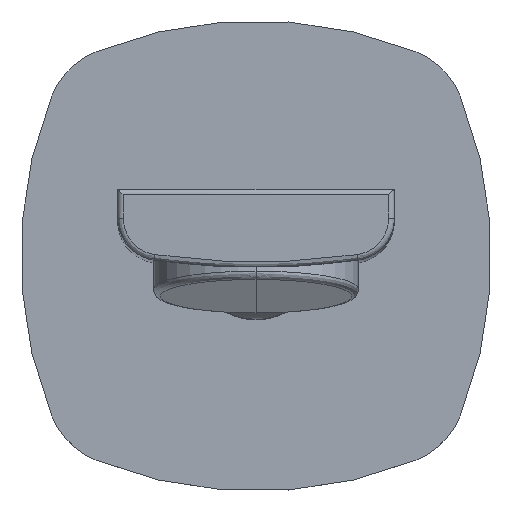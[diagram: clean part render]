
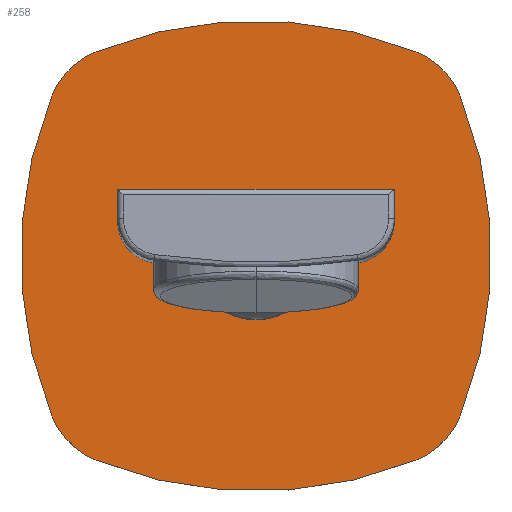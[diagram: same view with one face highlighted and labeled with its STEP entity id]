
A CAD part, top view. The second image highlights one B-rep face of the part: STEP entity #258.
In plain terms, the highlighted planar face has unit normal (0, 0, 1).
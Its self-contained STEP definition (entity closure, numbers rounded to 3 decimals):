
#258 = ADVANCED_FACE('',(#259),#333,.T.);
#259 = FACE_BOUND('',#260,.T.);
#260 = EDGE_LOOP('',(#261,#272,#281,#290,#299,#308,#317,#326));
#261 = ORIENTED_EDGE('',*,*,#262,.T.);
#262 = EDGE_CURVE('',#263,#265,#267,.T.);
#263 = VERTEX_POINT('',#264);
#264 = CARTESIAN_POINT('',(-22.538,28.784,
    2.5));
#265 = VERTEX_POINT('',#266);
#266 = CARTESIAN_POINT('',(-28.784,22.538,
    2.5));
#267 = CIRCLE('',#268,11.25);
#268 = AXIS2_PLACEMENT_3D('',#269,#270,#271);
#269 = CARTESIAN_POINT('',(-18.345,18.345,2.5
    ));
#270 = DIRECTION('',(0.,0.,1.));
#271 = DIRECTION('',(-0.928,0.373,0.));
#272 = ORIENTED_EDGE('',*,*,#273,.T.);
#273 = EDGE_CURVE('',#265,#274,#276,.T.);
#274 = VERTEX_POINT('',#275);
#275 = CARTESIAN_POINT('',(-28.784,-22.538,
    2.5));
#276 = CIRCLE('',#277,60.47);
#277 = AXIS2_PLACEMENT_3D('',#278,#279,#280);
#278 = CARTESIAN_POINT('',(27.329,0.,
    2.5));
#279 = DIRECTION('',(0.,0.,1.));
#280 = DIRECTION('',(-0.928,-0.373,0.));
#281 = ORIENTED_EDGE('',*,*,#282,.T.);
#282 = EDGE_CURVE('',#274,#283,#285,.T.);
#283 = VERTEX_POINT('',#284);
#284 = CARTESIAN_POINT('',(-22.538,-28.784,2.5
    ));
#285 = CIRCLE('',#286,11.25);
#286 = AXIS2_PLACEMENT_3D('',#287,#288,#289);
#287 = CARTESIAN_POINT('',(-18.345,-18.345,2.5
    ));
#288 = DIRECTION('',(0.,0.,1.));
#289 = DIRECTION('',(-0.373,-0.928,0.));
#290 = ORIENTED_EDGE('',*,*,#291,.T.);
#291 = EDGE_CURVE('',#283,#292,#294,.T.);
#292 = VERTEX_POINT('',#293);
#293 = CARTESIAN_POINT('',(22.538,-28.784,
    2.5));
#294 = CIRCLE('',#295,60.47);
#295 = AXIS2_PLACEMENT_3D('',#296,#297,#298);
#296 = CARTESIAN_POINT('',(0.,27.329,
    2.5));
#297 = DIRECTION('',(0.,0.,1.));
#298 = DIRECTION('',(0.373,-0.928,0.));
#299 = ORIENTED_EDGE('',*,*,#300,.T.);
#300 = EDGE_CURVE('',#292,#301,#303,.T.);
#301 = VERTEX_POINT('',#302);
#302 = CARTESIAN_POINT('',(28.784,-22.538,
    2.5));
#303 = CIRCLE('',#304,11.25);
#304 = AXIS2_PLACEMENT_3D('',#305,#306,#307);
#305 = CARTESIAN_POINT('',(18.345,-18.345,2.5
    ));
#306 = DIRECTION('',(0.,0.,1.));
#307 = DIRECTION('',(0.928,-0.373,0.));
#308 = ORIENTED_EDGE('',*,*,#309,.T.);
#309 = EDGE_CURVE('',#301,#310,#312,.T.);
#310 = VERTEX_POINT('',#311);
#311 = CARTESIAN_POINT('',(28.784,22.538,2.5)
  );
#312 = CIRCLE('',#313,60.47);
#313 = AXIS2_PLACEMENT_3D('',#314,#315,#316);
#314 = CARTESIAN_POINT('',(-27.329,0.,
    2.5));
#315 = DIRECTION('',(0.,0.,1.));
#316 = DIRECTION('',(0.928,0.373,-0.));
#317 = ORIENTED_EDGE('',*,*,#318,.T.);
#318 = EDGE_CURVE('',#310,#319,#321,.T.);
#319 = VERTEX_POINT('',#320);
#320 = CARTESIAN_POINT('',(22.538,28.784,
    2.5));
#321 = CIRCLE('',#322,11.25);
#322 = AXIS2_PLACEMENT_3D('',#323,#324,#325);
#323 = CARTESIAN_POINT('',(18.345,18.345,2.5
    ));
#324 = DIRECTION('',(0.,0.,1.));
#325 = DIRECTION('',(0.373,0.928,-0.));
#326 = ORIENTED_EDGE('',*,*,#327,.T.);
#327 = EDGE_CURVE('',#319,#263,#328,.T.);
#328 = CIRCLE('',#329,60.47);
#329 = AXIS2_PLACEMENT_3D('',#330,#331,#332);
#330 = CARTESIAN_POINT('',(0.,-27.329,
    2.5));
#331 = DIRECTION('',(0.,0.,1.));
#332 = DIRECTION('',(-0.373,0.928,0.));
#333 = PLANE('',#334);
#334 = AXIS2_PLACEMENT_3D('',#335,#336,#337);
#335 = CARTESIAN_POINT('',(-28.784,22.538,
    2.5));
#336 = DIRECTION('',(0.,0.,1.));
#337 = DIRECTION('',(-0.373,-0.928,0.));
